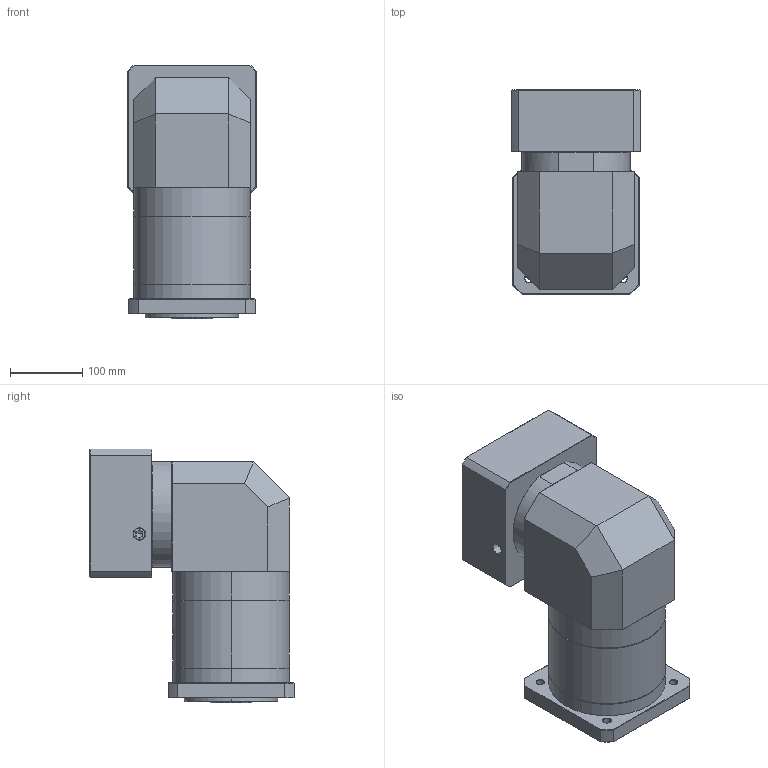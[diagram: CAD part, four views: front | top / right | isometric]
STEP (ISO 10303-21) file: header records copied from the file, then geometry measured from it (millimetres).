
FILE_DESCRIPTION (( 'STEP AP214' ), '1' );
FILE_NAME ('ZFR160A-K35-L3-P2-42-114.3-200-M12.step', '2023-09-03T09:04:12', ( '' ), ( '' ), 'SwSTEP 2.0', 'SolidWorks 2016', '' );
FILE_SCHEMA (( 'AUTOMOTIVE_DESIGN' ));
Length unit declared in the file: millimetre
Products named in the file (1): ZFR160A-K35-L3-P2-42-114.3-200-M12
Bounding box: 178 x 283.5 x 352.7 mm (x, y, z)
Volume: 9401335.9 mm3; surface area: 537569.4 mm2
Topology: 6 solids, 6 shells, 2136 faces, 5645 edges, 3616 vertices
Faces by surface type: plane 1039, bspline 403, cylinder 369, cone 305, torus 20
Entity records: 118302 total; most frequent: CARTESIAN_POINT 46990, ORIENTED_EDGE 11234, DIRECTION 8164, EDGE_CURVE 5617, VERTEX_POINT 3616, LINE 3030, VECTOR 3030, AXIS2_PLACEMENT_3D 2567
